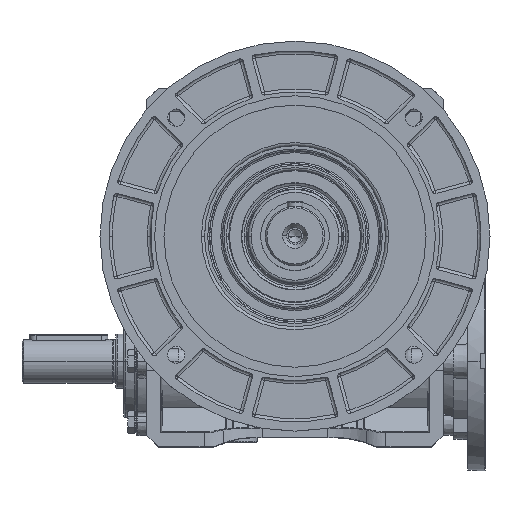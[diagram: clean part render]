
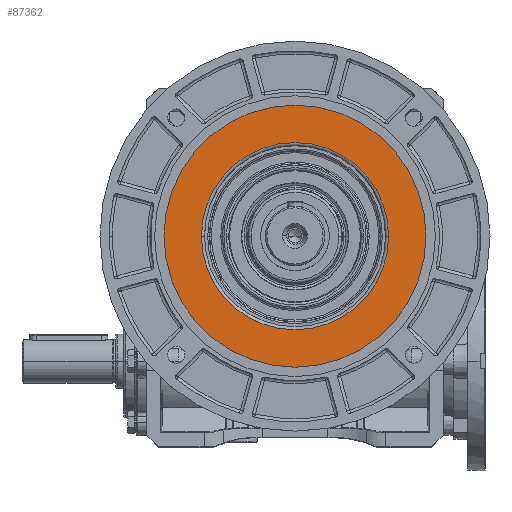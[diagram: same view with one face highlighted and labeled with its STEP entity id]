
A CAD part, top view. The second image highlights one B-rep face of the part: STEP entity #87362.
In plain terms, the highlighted planar face has unit normal (0, 0, 1).
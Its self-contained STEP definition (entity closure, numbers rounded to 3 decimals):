
#3944 = DIRECTION ( 'NONE',  ( 0., 0., 1. ) ) ;
#11879 = DIRECTION ( 'NONE',  ( 1., 0., 0. ) ) ;
#13046 = CARTESIAN_POINT ( 'NONE',  ( 0., 0., 119.5 ) ) ;
#17488 = CARTESIAN_POINT ( 'NONE',  ( 0., 0., 119.5 ) ) ;
#18502 = DIRECTION ( 'NONE',  ( 0., 0., -1. ) ) ;
#19697 = ORIENTED_EDGE ( 'NONE', *, *, #118951, .T. ) ;
#20100 = VERTEX_POINT ( 'NONE', #104652 ) ;
#20390 = FACE_BOUND ( 'NONE', #114657, .T. ) ;
#22056 = EDGE_CURVE ( 'NONE', #57877, #20100, #55235, .T. ) ;
#22149 = DIRECTION ( 'NONE',  ( 1., 0., 0. ) ) ;
#29760 = DIRECTION ( 'NONE',  ( 0., 0., -1. ) ) ;
#32624 = CARTESIAN_POINT ( 'NONE',  ( 60., 0., 119.5 ) ) ;
#36063 = CARTESIAN_POINT ( 'NONE',  ( 0., 0., 119.5 ) ) ;
#38422 = CIRCLE ( 'NONE', #79647, 84. ) ;
#40520 = AXIS2_PLACEMENT_3D ( 'NONE', #17488, #29760, #56958 ) ;
#54337 = ORIENTED_EDGE ( 'NONE', *, *, #121821, .T. ) ;
#55235 = CIRCLE ( 'NONE', #127506, 60. ) ;
#56958 = DIRECTION ( 'NONE',  ( -1., 0., 0. ) ) ;
#57877 = VERTEX_POINT ( 'NONE', #32624 ) ;
#61046 = DIRECTION ( 'NONE',  ( 0., 0., 1. ) ) ;
#64146 = CARTESIAN_POINT ( 'NONE',  ( 84., 0., 119.5 ) ) ;
#68275 = DIRECTION ( 'NONE',  ( -1., 0., 0. ) ) ;
#69040 = CIRCLE ( 'NONE', #104192, 84. ) ;
#74773 = AXIS2_PLACEMENT_3D ( 'NONE', #127719, #18502, #68275 ) ;
#74855 = DIRECTION ( 'NONE',  ( 0., 0., -1. ) ) ;
#77978 = FACE_OUTER_BOUND ( 'NONE', #115382, .T. ) ;
#79647 = AXIS2_PLACEMENT_3D ( 'NONE', #13046, #3944, #22149 ) ;
#82427 = VERTEX_POINT ( 'NONE', #85090 ) ;
#84852 = ORIENTED_EDGE ( 'NONE', *, *, #22056, .T. ) ;
#85090 = CARTESIAN_POINT ( 'NONE',  ( -84., 0., 119.5 ) ) ;
#87362 = ADVANCED_FACE ( 'NONE', ( #20390, #77978 ), #107096, .F. ) ;
#94362 = ORIENTED_EDGE ( 'NONE', *, *, #104050, .T. ) ;
#96867 = DIRECTION ( 'NONE',  ( -1., 0., 0. ) ) ;
#100300 = CIRCLE ( 'NONE', #40520, 60. ) ;
#104050 = EDGE_CURVE ( 'NONE', #20100, #57877, #100300, .T. ) ;
#104192 = AXIS2_PLACEMENT_3D ( 'NONE', #108939, #61046, #11879 ) ;
#104652 = CARTESIAN_POINT ( 'NONE',  ( -60., 0., 119.5 ) ) ;
#107096 = PLANE ( 'NONE',  #74773 ) ;
#108939 = CARTESIAN_POINT ( 'NONE',  ( 0., 0., 119.5 ) ) ;
#114657 = EDGE_LOOP ( 'NONE', ( #94362, #84852 ) ) ;
#115382 = EDGE_LOOP ( 'NONE', ( #19697, #54337 ) ) ;
#115692 = VERTEX_POINT ( 'NONE', #64146 ) ;
#118951 = EDGE_CURVE ( 'NONE', #115692, #82427, #69040, .T. ) ;
#121821 = EDGE_CURVE ( 'NONE', #82427, #115692, #38422, .T. ) ;
#127506 = AXIS2_PLACEMENT_3D ( 'NONE', #36063, #74855, #96867 ) ;
#127719 = CARTESIAN_POINT ( 'NONE',  ( 0., 84., 119.5 ) ) ;
